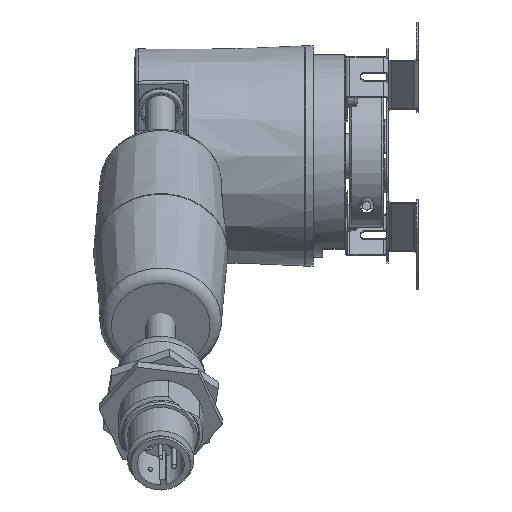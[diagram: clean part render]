
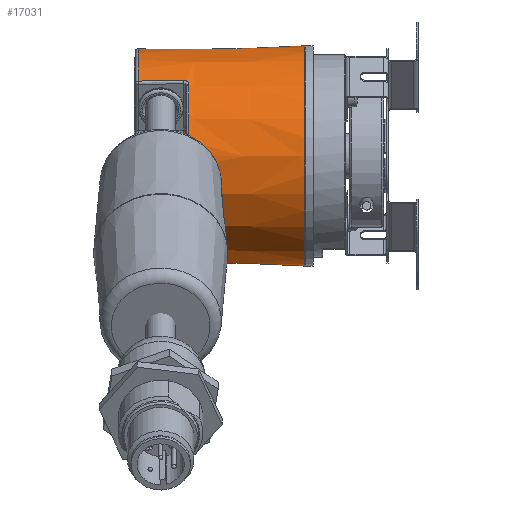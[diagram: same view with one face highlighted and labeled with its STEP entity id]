
A CAD part, front view. The second image highlights one B-rep face of the part: STEP entity #17031.
In plain terms, the highlighted conical face has half-angle 1 degrees and reference radius 18.976 mm.
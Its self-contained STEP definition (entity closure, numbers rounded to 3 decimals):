
#558 = CARTESIAN_POINT ( 'NONE',  ( -31.71, -13.631, 13.34 ) ) ;
#1157 = CARTESIAN_POINT ( 'NONE',  ( -28.308, -18.559, -4.653 ) ) ;
#1263 = ORIENTED_EDGE ( 'NONE', *, *, #17083, .T. ) ;
#1765 = CARTESIAN_POINT ( 'NONE',  ( -37.2, 0., 0. ) ) ;
#1798 = CARTESIAN_POINT ( 'NONE',  ( -7.2, 19.5, 0. ) ) ;
#1832 = CARTESIAN_POINT ( 'NONE',  ( -27.733, -14.216, 12.819 ) ) ;
#2262 = CARTESIAN_POINT ( 'NONE',  ( -29.709, -13.649, 13.371 ) ) ;
#2309 = CARTESIAN_POINT ( 'NONE',  ( -35.048, -14.067, -12.795 ) ) ;
#2583 = EDGE_LOOP ( 'NONE', ( #4603, #5009, #12913, #10707, #1263, #10126 ) ) ;
#2814 = CARTESIAN_POINT ( 'NONE',  ( -27.709, -19.142, -0.086 ) ) ;
#2895 = CARTESIAN_POINT ( 'NONE',  ( -28.659, -18.255, -5.732 ) ) ;
#3980 = DIRECTION ( 'NONE',  ( 1., 0., 0. ) ) ;
#4002 = CARTESIAN_POINT ( 'NONE',  ( -35.598, -13.443, -13.436 ) ) ;
#4237 = CIRCLE ( 'NONE', #7875, 19.5 ) ;
#4523 = EDGE_CURVE ( 'NONE', #13092, #7849, #9149, .T. ) ;
#4573 = CARTESIAN_POINT ( 'NONE',  ( -29.35, -17.702, -7.228 ) ) ;
#4603 = ORIENTED_EDGE ( 'NONE', *, *, #4730, .F. ) ;
#4730 = EDGE_CURVE ( 'NONE', #20321, #13001, #7514, .T. ) ;
#5009 = ORIENTED_EDGE ( 'NONE', *, *, #8842, .T. ) ;
#5112 = DIRECTION ( 'NONE',  ( 1., 0., 0. ) ) ;
#5185 = CARTESIAN_POINT ( 'NONE',  ( -7.2, 0., 0. ) ) ;
#5253 = CARTESIAN_POINT ( 'NONE',  ( -27.898, -13.961, 13.091 ) ) ;
#5282 = CARTESIAN_POINT ( 'NONE',  ( -27.709, 0., 0. ) ) ;
#5525 = ORIENTED_EDGE ( 'NONE', *, *, #16010, .T. ) ;
#5720 = CARTESIAN_POINT ( 'NONE',  ( -36.033, -12.756, -14.081 ) ) ;
#6027 = CIRCLE ( 'NONE', #17170, 18.985 ) ;
#6305 = CARTESIAN_POINT ( 'NONE',  ( -30.228, -17.063, -8.593 ) ) ;
#6681 = AXIS2_PLACEMENT_3D ( 'NONE', #5282, #17181, #6999 ) ;
#6904 = DIRECTION ( 'NONE',  ( 0., 1., 0. ) ) ;
#6950 = CARTESIAN_POINT ( 'NONE',  ( -27.709, -14.397, 12.615 ) ) ;
#6962 = CARTESIAN_POINT ( 'NONE',  ( -28.19, -13.762, 13.293 ) ) ;
#6999 = DIRECTION ( 'NONE',  ( 0., 1., 0. ) ) ;
#7455 = CARTESIAN_POINT ( 'NONE',  ( -36.361, -12.001, -14.722 ) ) ;
#7514 = B_SPLINE_CURVE_WITH_KNOTS ( 'NONE', 3,
 ( #13744, #10313, #1832, #15430, #5253, #17147, #6962, #18902, #8658, #20618 ),
 .UNSPECIFIED., .F., .F.,
 ( 4, 2, 2, 2, 4 ),
 ( 0., 0., 0.001, 0.001, 0.002 ),
 .UNSPECIFIED. ) ;
#7849 = VERTEX_POINT ( 'NONE', #17665 ) ;
#7875 = AXIS2_PLACEMENT_3D ( 'NONE', #5185, #17092, #6904 ) ;
#7931 = CARTESIAN_POINT ( 'NONE',  ( -27.735, -19.109, -1.263 ) ) ;
#7994 = CARTESIAN_POINT ( 'NONE',  ( -31.645, -16.138, -10.208 ) ) ;
#8430 = VERTEX_POINT ( 'NONE', #1798 ) ;
#8658 = CARTESIAN_POINT ( 'NONE',  ( -28.572, -13.659, 13.389 ) ) ;
#8842 = EDGE_CURVE ( 'NONE', #20321, #13092, #8955, .T. ) ;
#8955 = CIRCLE ( 'NONE', #6681, 19.142 ) ;
#8956 = CARTESIAN_POINT ( 'NONE',  ( -36.709, -13.586, 13.261 ) ) ;
#9031 = CARTESIAN_POINT ( 'NONE',  ( -35.709, -13.595, 13.277 ) ) ;
#9077 = CARTESIAN_POINT ( 'NONE',  ( -33.383, -15.211, -11.457 ) ) ;
#9149 = B_SPLINE_CURVE_WITH_KNOTS ( 'NONE', 3,
 ( #2814, #18157, #7931, #19879, #9653, #21580, #11370, #1157, #13077, #2895, #14764, #4573, #16485, #6305, #18230, #7994, #19957, #9731 ),
 .UNSPECIFIED., .F., .F.,
 ( 4, 2, 2, 2, 2, 2, 2, 2, 4 ),
 ( 0., 0.002, 0.004, 0.004, 0.005, 0.007, 0.009, 0.011, 0.014 ),
 .UNSPECIFIED. ) ;
#9154 = CARTESIAN_POINT ( 'NONE',  ( -36.647, -10.914, -15.55 ) ) ;
#9653 = CARTESIAN_POINT ( 'NONE',  ( -27.926, -18.912, -2.987 ) ) ;
#9731 = CARTESIAN_POINT ( 'NONE',  ( -33.383, -15.211, -11.457 ) ) ;
#9772 = FACE_OUTER_BOUND ( 'NONE', #14821, .T. ) ;
#10126 = ORIENTED_EDGE ( 'NONE', *, *, #15243, .T. ) ;
#10313 = CARTESIAN_POINT ( 'NONE',  ( -27.709, -14.307, 12.718 ) ) ;
#10336 = AXIS2_PLACEMENT_3D ( 'NONE', #1765, #5112, #13755 ) ;
#10707 = ORIENTED_EDGE ( 'NONE', *, *, #15811, .T. ) ;
#10735 = CARTESIAN_POINT ( 'NONE',  ( -33.043, -13.619, 13.319 ) ) ;
#10873 = CARTESIAN_POINT ( 'NONE',  ( -36.709, -9.739, -16.296 ) ) ;
#11370 = CARTESIAN_POINT ( 'NONE',  ( -28.162, -18.691, -4.103 ) ) ;
#11535 = VERTEX_POINT ( 'NONE', #11796 ) ;
#11719 = B_SPLINE_CURVE_WITH_KNOTS ( 'NONE', 3,
 ( #9077, #12352, #12507, #2309, #14218, #4002, #15927, #5720, #17639, #7455, #19379, #9154, #21099, #10873 ),
 .UNSPECIFIED., .F., .F.,
 ( 4, 2, 2, 2, 2, 2, 4 ),
 ( 0., 0.002, 0.003, 0.004, 0.005, 0.006, 0.008 ),
 .UNSPECIFIED. ) ;
#11796 = CARTESIAN_POINT ( 'NONE',  ( -36.709, -9.739, -16.296 ) ) ;
#12176 = CONICAL_SURFACE ( 'NONE', #10336, 18.976, 0.017 ) ;
#12352 = CARTESIAN_POINT ( 'NONE',  ( -33.932, -14.94, -11.801 ) ) ;
#12467 = CARTESIAN_POINT ( 'NONE',  ( -30.709, -13.64, 13.356 ) ) ;
#12507 = CARTESIAN_POINT ( 'NONE',  ( -34.415, -14.623, -12.182 ) ) ;
#12588 = CARTESIAN_POINT ( 'NONE',  ( -28.709, -13.658, 13.387 ) ) ;
#12673 = B_SPLINE_CURVE_WITH_KNOTS ( 'NONE', 3,
 ( #8956, #20829, #19252, #9031, #20985, #10735, #558, #12467, #2262, #14176 ),
 .UNSPECIFIED., .F., .F.,
 ( 4, 3, 3, 4 ),
 ( 0., 0.001, 0.005, 0.008 ),
 .UNSPECIFIED. ) ;
#12913 = ORIENTED_EDGE ( 'NONE', *, *, #4523, .T. ) ;
#13001 = VERTEX_POINT ( 'NONE', #12588 ) ;
#13077 = CARTESIAN_POINT ( 'NONE',  ( -28.39, -18.487, -4.927 ) ) ;
#13092 = VERTEX_POINT ( 'NONE', #21317 ) ;
#13492 = VERTEX_POINT ( 'NONE', #15614 ) ;
#13744 = CARTESIAN_POINT ( 'NONE',  ( -27.709, -14.397, 12.615 ) ) ;
#13755 = DIRECTION ( 'NONE',  ( 0., -1., 0. ) ) ;
#14176 = CARTESIAN_POINT ( 'NONE',  ( -28.709, -13.658, 13.387 ) ) ;
#14198 = CARTESIAN_POINT ( 'NONE',  ( -36.709, 0., 0. ) ) ;
#14218 = CARTESIAN_POINT ( 'NONE',  ( -35.244, -13.866, -13.008 ) ) ;
#14764 = CARTESIAN_POINT ( 'NONE',  ( -28.869, -18.081, -6.246 ) ) ;
#14821 = EDGE_LOOP ( 'NONE', ( #5525 ) ) ;
#15243 = EDGE_CURVE ( 'NONE', #13492, #13001, #12673, .T. ) ;
#15430 = CARTESIAN_POINT ( 'NONE',  ( -27.827, -14.044, 13.005 ) ) ;
#15614 = CARTESIAN_POINT ( 'NONE',  ( -36.709, -13.586, 13.261 ) ) ;
#15811 = EDGE_CURVE ( 'NONE', #7849, #11535, #11719, .T. ) ;
#15904 = DIRECTION ( 'NONE',  ( 0., 1., 0. ) ) ;
#15927 = CARTESIAN_POINT ( 'NONE',  ( -35.755, -13.222, -13.651 ) ) ;
#16010 = EDGE_CURVE ( 'NONE', #8430, #8430, #4237, .T. ) ;
#16485 = CARTESIAN_POINT ( 'NONE',  ( -29.622, -17.497, -7.698 ) ) ;
#17031 = ADVANCED_FACE ( 'NONE', ( #9772, #18857 ), #12176, .T. ) ;
#17083 = EDGE_CURVE ( 'NONE', #11535, #13492, #6027, .T. ) ;
#17092 = DIRECTION ( 'NONE',  ( -1., 0., 0. ) ) ;
#17147 = CARTESIAN_POINT ( 'NONE',  ( -28.079, -13.821, 13.235 ) ) ;
#17170 = AXIS2_PLACEMENT_3D ( 'NONE', #14198, #3980, #15904 ) ;
#17181 = DIRECTION ( 'NONE',  ( 1., 0., 0. ) ) ;
#17639 = CARTESIAN_POINT ( 'NONE',  ( -36.154, -12.512, -14.295 ) ) ;
#17665 = CARTESIAN_POINT ( 'NONE',  ( -33.383, -15.211, -11.457 ) ) ;
#18157 = CARTESIAN_POINT ( 'NONE',  ( -27.709, -19.139, -0.674 ) ) ;
#18230 = CARTESIAN_POINT ( 'NONE',  ( -30.565, -16.833, -9.021 ) ) ;
#18857 = FACE_BOUND ( 'NONE', #2583, .T. ) ;
#18902 = CARTESIAN_POINT ( 'NONE',  ( -28.437, -13.681, 13.37 ) ) ;
#19252 = CARTESIAN_POINT ( 'NONE',  ( -36.042, -13.592, 13.271 ) ) ;
#19379 = CARTESIAN_POINT ( 'NONE',  ( -36.446, -11.733, -14.935 ) ) ;
#19879 = CARTESIAN_POINT ( 'NONE',  ( -27.843, -18.995, -2.418 ) ) ;
#19957 = CARTESIAN_POINT ( 'NONE',  ( -32.463, -15.664, -10.882 ) ) ;
#20321 = VERTEX_POINT ( 'NONE', #6950 ) ;
#20618 = CARTESIAN_POINT ( 'NONE',  ( -28.709, -13.658, 13.387 ) ) ;
#20829 = CARTESIAN_POINT ( 'NONE',  ( -36.375, -13.589, 13.266 ) ) ;
#20985 = CARTESIAN_POINT ( 'NONE',  ( -34.376, -13.607, 13.298 ) ) ;
#21099 = CARTESIAN_POINT ( 'NONE',  ( -36.709, -10.341, -15.937 ) ) ;
#21317 = CARTESIAN_POINT ( 'NONE',  ( -27.709, -19.142, -0.086 ) ) ;
#21580 = CARTESIAN_POINT ( 'NONE',  ( -28.097, -18.751, -3.826 ) ) ;
